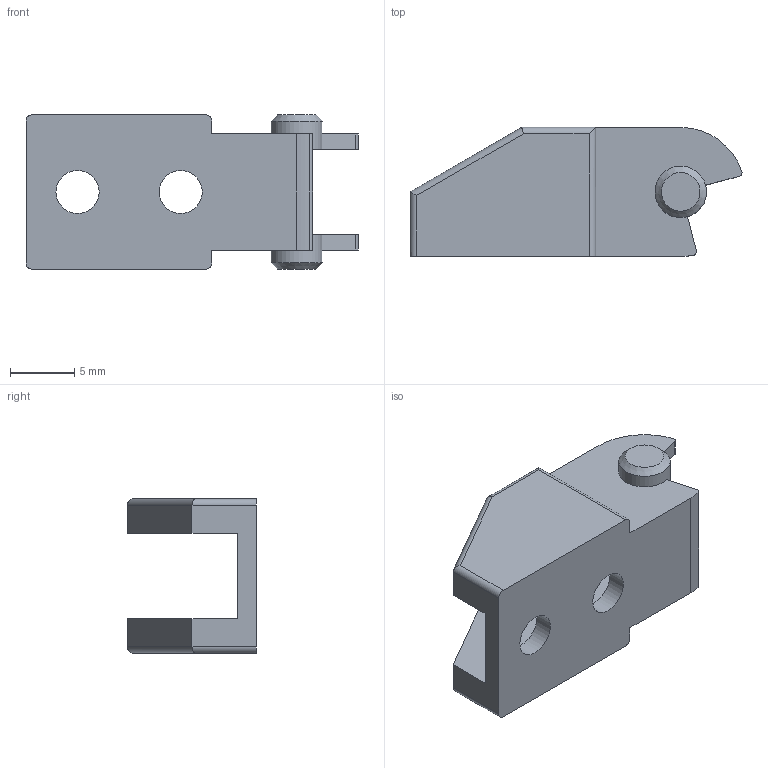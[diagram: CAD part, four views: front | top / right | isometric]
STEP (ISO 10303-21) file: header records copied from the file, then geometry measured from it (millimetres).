
FILE_DESCRIPTION((''),'2;1');
FILE_NAME('C:\Uebbing\PARAMETERKETTEN\KOLIBRI\Kol_10_012_4\Kol_10_012_4_Anschluss_Zapfen 1814.stp','2011-11-02T10:50:22',('Uebbing'),(''),'Autodesk Inventor 10','Autodesk Inventor 10','');
FILE_SCHEMA(('AUTOMOTIVE_DESIGN { 1 0 10303 214 1 1 1 1 }'));
Length unit declared in the file: millimetre
Products named in the file (1): Kol_10_012_4_Anschluss_Zapfen 1814
Bounding box: 25.75 x 10 x 12 mm (x, y, z)
Volume: 1097.3 mm3; surface area: 1392.2 mm2
Topology: 1 solids, 1 shells, 40 faces, 105 edges, 67 vertices
Faces by surface type: plane 20, cylinder 18, cone 2
Full cylindrical faces by diameter (mm): 3.35 x2, 4 x2
Entity records: 1223 total; most frequent: DIRECTION 214, CARTESIAN_POINT 205, ORIENTED_EDGE 196, EDGE_CURVE 98, AXIS2_PLACEMENT_3D 75, VERTEX_POINT 66, VECTOR 64, LINE 64
